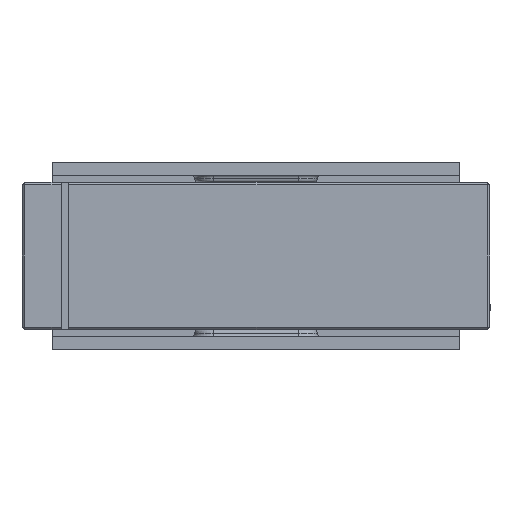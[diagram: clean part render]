
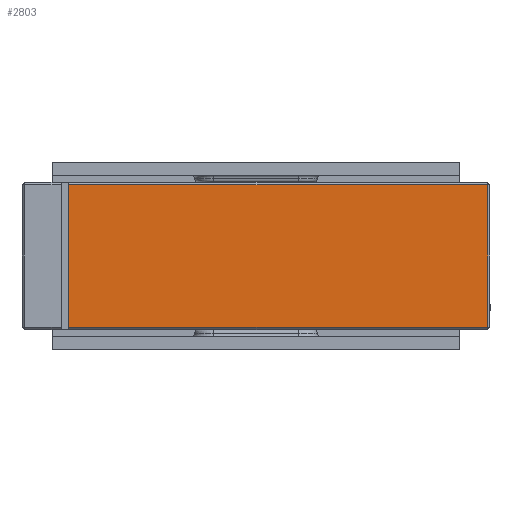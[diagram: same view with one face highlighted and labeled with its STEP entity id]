
A CAD part, left-side view. The second image highlights one B-rep face of the part: STEP entity #2803.
In plain terms, the highlighted planar face has unit normal (-1, 0, 0).
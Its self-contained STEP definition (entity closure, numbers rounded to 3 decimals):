
#490 = ORIENTED_EDGE ( 'NONE', *, *, #1995, .T. ) ;
#825 = LINE ( 'NONE', #7621, #8394 ) ;
#904 = LINE ( 'NONE', #5582, #1291 ) ;
#963 = CARTESIAN_POINT ( 'NONE',  ( -8., -9.45, 2.9 ) ) ;
#1202 = EDGE_CURVE ( 'NONE', #1432, #6688, #4386, .T. ) ;
#1291 = VECTOR ( 'NONE', #5088, 1000. ) ;
#1432 = VERTEX_POINT ( 'NONE', #6115 ) ;
#1876 = VECTOR ( 'NONE', #7254, 1000. ) ;
#1995 = EDGE_CURVE ( 'NONE', #4771, #1432, #3227, .T. ) ;
#2030 = FACE_OUTER_BOUND ( 'NONE', #3097, .T. ) ;
#2423 = EDGE_CURVE ( 'NONE', #6688, #7818, #904, .T. ) ;
#2502 = CARTESIAN_POINT ( 'NONE',  ( -8., 7.65, -2.9 ) ) ;
#2803 = ADVANCED_FACE ( 'NONE', ( #2030 ), #3372, .F. ) ;
#3097 = EDGE_LOOP ( 'NONE', ( #490, #5161, #3105, #3451 ) ) ;
#3105 = ORIENTED_EDGE ( 'NONE', *, *, #2423, .T. ) ;
#3227 = LINE ( 'NONE', #6633, #1876 ) ;
#3372 = PLANE ( 'NONE',  #5521 ) ;
#3451 = ORIENTED_EDGE ( 'NONE', *, *, #7078, .T. ) ;
#3995 = CARTESIAN_POINT ( 'NONE',  ( -8., 7.65, 3. ) ) ;
#4386 = LINE ( 'NONE', #2502, #8328 ) ;
#4771 = VERTEX_POINT ( 'NONE', #8638 ) ;
#4895 = CARTESIAN_POINT ( 'NONE',  ( -8., -9.45, -2.9 ) ) ;
#5088 = DIRECTION ( 'NONE',  ( 0., 0., 1. ) ) ;
#5161 = ORIENTED_EDGE ( 'NONE', *, *, #1202, .T. ) ;
#5207 = DIRECTION ( 'NONE',  ( 0., -1., 0. ) ) ;
#5396 = DIRECTION ( 'NONE',  ( 0., 1., 0. ) ) ;
#5521 = AXIS2_PLACEMENT_3D ( 'NONE', #3995, #6063, #5396 ) ;
#5582 = CARTESIAN_POINT ( 'NONE',  ( -8., -9.45, 3. ) ) ;
#6063 = DIRECTION ( 'NONE',  ( 1., 0., 0. ) ) ;
#6115 = CARTESIAN_POINT ( 'NONE',  ( -8., 7.65, -2.9 ) ) ;
#6633 = CARTESIAN_POINT ( 'NONE',  ( -8., 7.65, 3. ) ) ;
#6688 = VERTEX_POINT ( 'NONE', #4895 ) ;
#7078 = EDGE_CURVE ( 'NONE', #7818, #4771, #825, .T. ) ;
#7254 = DIRECTION ( 'NONE',  ( 0., 0., -1. ) ) ;
#7621 = CARTESIAN_POINT ( 'NONE',  ( -8., 7.65, 2.9 ) ) ;
#7818 = VERTEX_POINT ( 'NONE', #963 ) ;
#8328 = VECTOR ( 'NONE', #5207, 1000. ) ;
#8366 = DIRECTION ( 'NONE',  ( 0., 1., 0. ) ) ;
#8394 = VECTOR ( 'NONE', #8366, 1000. ) ;
#8638 = CARTESIAN_POINT ( 'NONE',  ( -8., 7.65, 2.9 ) ) ;
